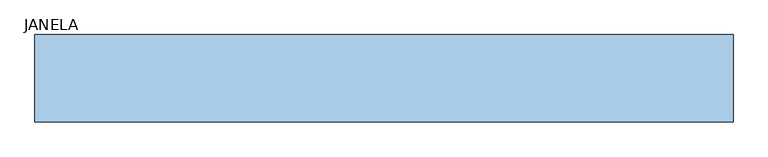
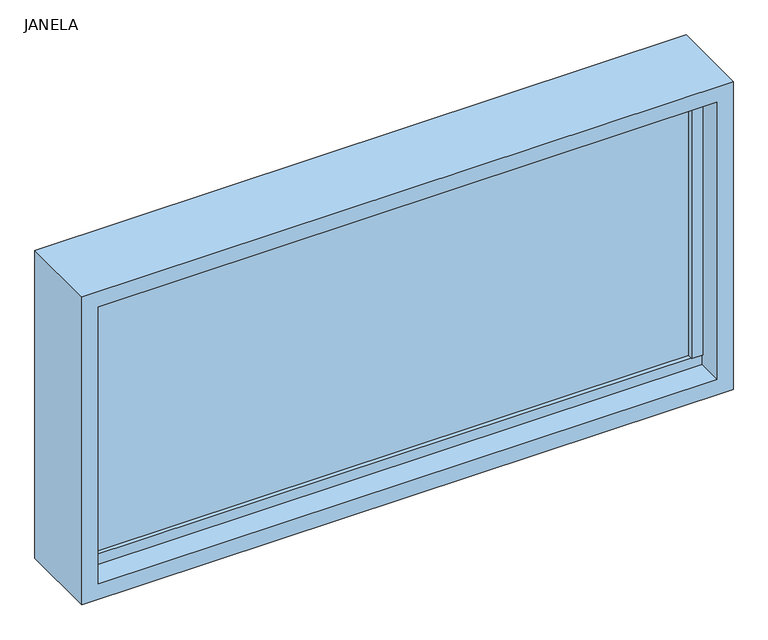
"""IFC4 building model written with IfcOpenShell, lengths in millimetres: window geometry, JANELA : bandeira 1,20 x 0.60."""

from ifc_helpers import new_model, si_unit, frame, origin, place, context, project, spatial, polyline, outline, extrude, source, transform, mapped, element, save


def janela_93b8da09(model_context):
    return source(origin(), model_context, "Body", "SweptSolid", [
        extrude(outline(polyline([(-550.0, 30.0), (-550.0, -30.0), (-570.0, -30.0), (-570.0, 30.0), (-550.0, 30.0)])), frame((0.0, 0.0, 1550.0), z_axis=(0.0, 0.0, 1.0), x_axis=(1.0, 0.0, 0.0)), (0.0, 0.0, 1.0), 500.0),
        extrude(outline(polyline([(570.0, 30.0), (570.0, -30.0), (550.0, -30.0), (550.0, 30.0), (570.0, 30.0)])), frame((0.0, 0.0, 1550.0), z_axis=(0.0, 0.0, 1.0), x_axis=(1.0, 0.0, 0.0)), (0.0, 0.0, 1.0), 500.0),
        extrude(outline(polyline([(570.0, 27.5), (570.0, -27.5), (-570.0, -27.5), (-570.0, 27.5), (570.0, 27.5)])), frame((0.0, 0.0, 2050.0), z_axis=(0.0, 0.0, 1.0), x_axis=(1.0, 0.0, 0.0)), (0.0, 0.0, 1.0), 20.0),
        extrude(outline(polyline([(570.0, 27.5), (570.0, -27.5), (-570.0, -27.5), (-570.0, 27.5), (570.0, 27.5)])), frame((0.0, 0.0, 1530.0), z_axis=(0.0, 0.0, 1.0), x_axis=(1.0, 0.0, 0.0)), (0.0, 0.0, 1.0), 20.0),
        extrude(outline(polyline([(550.0, -20.0), (-550.0, -20.0), (-550.0, -5.0), (550.0, -5.0), (550.0, -20.0)])), frame((0.0, 0.0, 1550.0), z_axis=(0.0, 0.0, 1.0), x_axis=(1.0, 0.0, 0.0)), (0.0, 0.0, 1.0), 500.0),
        extrude(outline(polyline([(2100.0, -600.0), (1500.0, -600.0), (1500.0, 600.0), (2100.0, 600.0), (2100.0, -600.0)]), holes=[polyline([(2070.0, 570.0), (1530.0, 570.0), (1530.0, -570.0), (2070.0, -570.0), (2070.0, 570.0)])]), frame((0.0, -75.0, 0.0), z_axis=(0.0, 1.0, 0.0), x_axis=(0.0, 0.0, 1.0)), (0.0, 0.0, 1.0), 150.0),
    ])


if __name__ == "__main__":
    model = new_model("IFC4")
    model_context = context("Model", 3, world=origin())
    ifc_project = project(units=[si_unit("LENGTHUNIT", "METRE", prefix="MILLI")], contexts=[model_context])
    site = spatial("IfcSite", under=ifc_project)
    building = spatial("IfcBuilding", under=site)
    placement = place(None, origin())
    janela_shape = janela_93b8da09(model_context)
    element("IfcWindow", 1, ObjectType="JANELA : bandeira 1,20 x 0.60", at=placement, inside=building, context=model_context, shape_type="MappedRepresentation", body=[
        mapped(janela_shape, transform((0.0, 0.0, 0.0), x_axis=(1.0, 0.0, 0.0), y_axis=(0.0, 1.0, 0.0), z_axis=(0.0, 0.0, 1.0))),
    ])
    save(model, "model.ifc")
